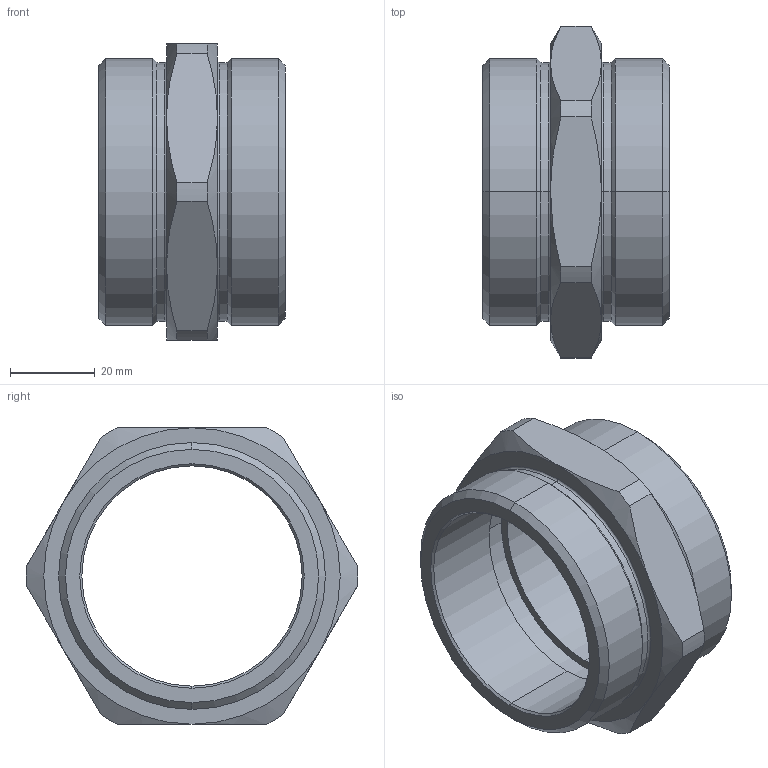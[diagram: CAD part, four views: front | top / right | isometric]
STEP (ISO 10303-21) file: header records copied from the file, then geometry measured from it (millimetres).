
FILE_DESCRIPTION (( 'STEP AP203' ), '1' );
FILE_NAME ('ﾍﾂﾍ6Mﾍ.STEP', '2019-06-05T11:20:59', ( '' ), ( '' ), 'SwSTEP 2.0', 'SolidWorks 2012', '' );
FILE_SCHEMA (( 'CONFIG_CONTROL_DESIGN' ));
Length unit declared in the file: millimetre
Products named in the file (1): ﾍﾂﾍ6Mﾍ
Bounding box: 44 x 78.39 x 70 mm (x, y, z)
Volume: 52796.7 mm3; surface area: 20918.1 mm2
Topology: 1 solids, 1 shells, 60 faces, 130 edges, 76 vertices
Faces by surface type: cone 24, cylinder 20, plane 12, torus 4
Entity records: 1843 total; most frequent: CARTESIAN_POINT 451, DIRECTION 296, ORIENTED_EDGE 260, EDGE_CURVE 130, AXIS2_PLACEMENT_3D 129, VERTEX_POINT 76, CIRCLE 68, EDGE_LOOP 66
